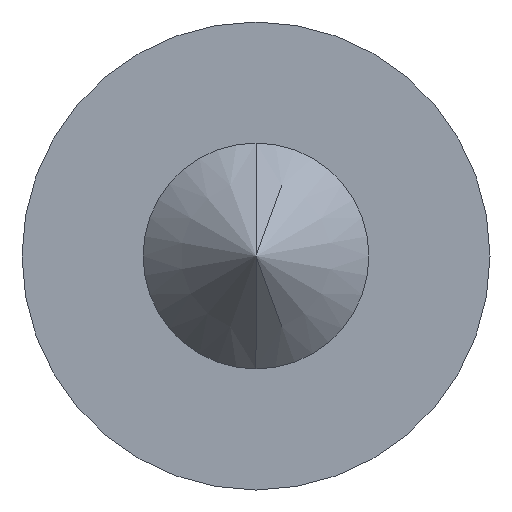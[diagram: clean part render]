
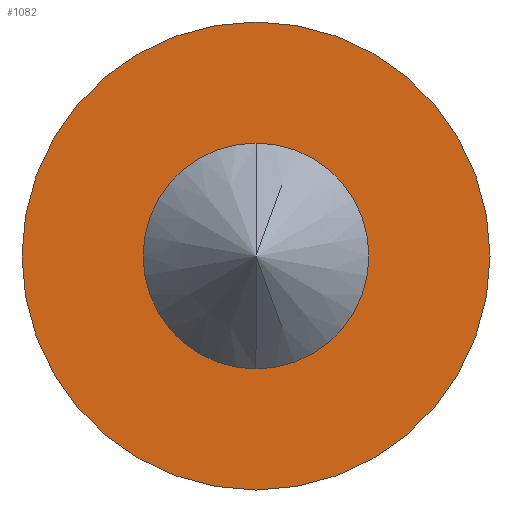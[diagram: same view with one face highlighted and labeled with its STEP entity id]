
A CAD part, left-side view. The second image highlights one B-rep face of the part: STEP entity #1082.
In plain terms, the highlighted planar face has unit normal (-1, 0, 0).
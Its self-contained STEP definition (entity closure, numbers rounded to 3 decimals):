
#90 = DIRECTION ( 'NONE',  ( -1., 0., 0. ) ) ;
#108 = CIRCLE ( 'NONE', #1426, 2.9 ) ;
#111 = CARTESIAN_POINT ( 'NONE',  ( -7.845, 0., 0. ) ) ;
#153 = EDGE_CURVE ( 'NONE', #220, #542, #1571, .T. ) ;
#220 = VERTEX_POINT ( 'NONE', #353 ) ;
#257 = PLANE ( 'NONE',  #972 ) ;
#281 = VERTEX_POINT ( 'NONE', #1494 ) ;
#306 = DIRECTION ( 'NONE',  ( 0., 0., 1. ) ) ;
#353 = CARTESIAN_POINT ( 'NONE',  ( -7.845, 0., 1.202 ) ) ;
#363 = DIRECTION ( 'NONE',  ( -1., 0., 0. ) ) ;
#367 = DIRECTION ( 'NONE',  ( 0., 0., 1. ) ) ;
#389 = CARTESIAN_POINT ( 'NONE',  ( -7.845, 0., 2.9 ) ) ;
#404 = DIRECTION ( 'NONE',  ( 0., 0., -1. ) ) ;
#542 = VERTEX_POINT ( 'NONE', #897 ) ;
#644 = EDGE_CURVE ( 'NONE', #281, #960, #1449, .T. ) ;
#664 = ORIENTED_EDGE ( 'NONE', *, *, #644, .T. ) ;
#737 = DIRECTION ( 'NONE',  ( 0., 0., 1. ) ) ;
#821 = CARTESIAN_POINT ( 'NONE',  ( -7.845, 0., 0. ) ) ;
#837 = CIRCLE ( 'NONE', #921, 1.202 ) ;
#842 = ORIENTED_EDGE ( 'NONE', *, *, #1155, .T. ) ;
#852 = AXIS2_PLACEMENT_3D ( 'NONE', #111, #1511, #737 ) ;
#867 = CARTESIAN_POINT ( 'NONE',  ( -7.845, 2.9, 0. ) ) ;
#897 = CARTESIAN_POINT ( 'NONE',  ( -7.845, 0., -1.202 ) ) ;
#921 = AXIS2_PLACEMENT_3D ( 'NONE', #1373, #90, #1517 ) ;
#960 = VERTEX_POINT ( 'NONE', #389 ) ;
#972 = AXIS2_PLACEMENT_3D ( 'NONE', #867, #1468, #404 ) ;
#1047 = ORIENTED_EDGE ( 'NONE', *, *, #153, .F. ) ;
#1073 = CARTESIAN_POINT ( 'NONE',  ( -7.845, 0., 0. ) ) ;
#1080 = FACE_BOUND ( 'NONE', #1254, .T. ) ;
#1082 = ADVANCED_FACE ( 'NONE', ( #1080, #1308 ), #257, .F. ) ;
#1155 = EDGE_CURVE ( 'NONE', #960, #281, #108, .T. ) ;
#1170 = EDGE_LOOP ( 'NONE', ( #842, #664 ) ) ;
#1254 = EDGE_LOOP ( 'NONE', ( #1395, #1047 ) ) ;
#1308 = FACE_OUTER_BOUND ( 'NONE', #1170, .T. ) ;
#1373 = CARTESIAN_POINT ( 'NONE',  ( -7.845, 0., 0. ) ) ;
#1395 = ORIENTED_EDGE ( 'NONE', *, *, #1567, .F. ) ;
#1426 = AXIS2_PLACEMENT_3D ( 'NONE', #821, #363, #367 ) ;
#1428 = DIRECTION ( 'NONE',  ( -1., 0., 0. ) ) ;
#1449 = CIRCLE ( 'NONE', #1553, 2.9 ) ;
#1468 = DIRECTION ( 'NONE',  ( 1., 0., 0. ) ) ;
#1494 = CARTESIAN_POINT ( 'NONE',  ( -7.845, 0., -2.9 ) ) ;
#1511 = DIRECTION ( 'NONE',  ( -1., 0., 0. ) ) ;
#1517 = DIRECTION ( 'NONE',  ( 0., 0., 1. ) ) ;
#1553 = AXIS2_PLACEMENT_3D ( 'NONE', #1073, #1428, #306 ) ;
#1567 = EDGE_CURVE ( 'NONE', #542, #220, #837, .T. ) ;
#1571 = CIRCLE ( 'NONE', #852, 1.202 ) ;
